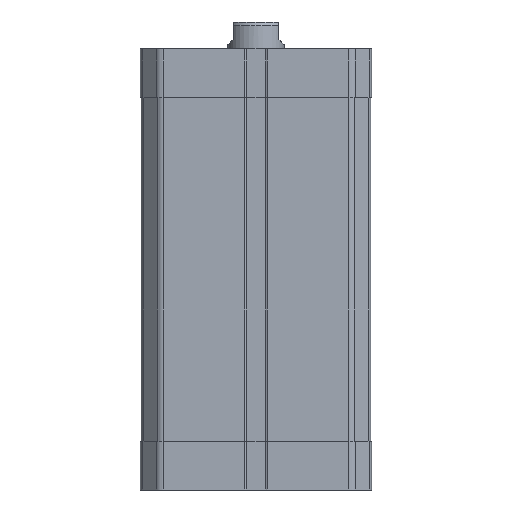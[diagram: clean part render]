
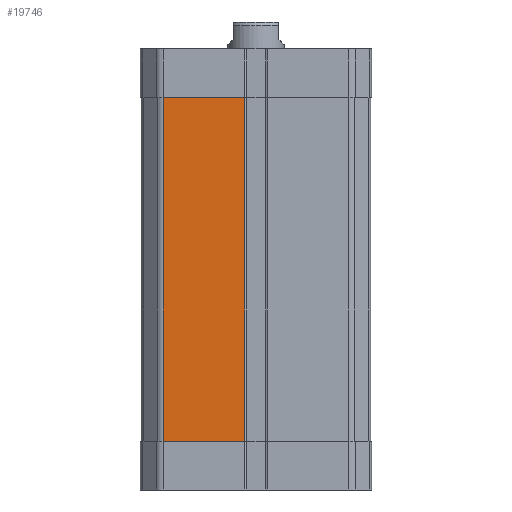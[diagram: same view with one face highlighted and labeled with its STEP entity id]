
A CAD part, front view. The second image highlights one B-rep face of the part: STEP entity #19746.
In plain terms, the highlighted planar face has unit normal (0, -1, 0).
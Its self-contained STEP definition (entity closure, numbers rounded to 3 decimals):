
#413 = ORIENTED_EDGE ( 'NONE', *, *, #30836, .T. ) ;
#1641 = CARTESIAN_POINT ( 'NONE',  ( 32.5, -32.5, -13.8 ) ) ;
#3850 = VECTOR ( 'NONE', #8974, 1000. ) ;
#4266 = EDGE_CURVE ( 'NONE', #22541, #15571, #10324, .T. ) ;
#4832 = ORIENTED_EDGE ( 'NONE', *, *, #4266, .F. ) ;
#7546 = VECTOR ( 'NONE', #23824, 1000. ) ;
#8448 = CARTESIAN_POINT ( 'NONE',  ( -3.125, -32.5, -111.2 ) ) ;
#8572 = VERTEX_POINT ( 'NONE', #9058 ) ;
#8930 = PLANE ( 'NONE',  #10762 ) ;
#8974 = DIRECTION ( 'NONE',  ( 1., 0., 0. ) ) ;
#9058 = CARTESIAN_POINT ( 'NONE',  ( -3.125, -32.5, -111.2 ) ) ;
#9246 = CARTESIAN_POINT ( 'NONE',  ( 32.5, -32.5, -13.8 ) ) ;
#10324 = LINE ( 'NONE', #1641, #3850 ) ;
#10762 = AXIS2_PLACEMENT_3D ( 'NONE', #9246, #23756, #13931 ) ;
#13806 = VECTOR ( 'NONE', #18234, 1000. ) ;
#13871 = ORIENTED_EDGE ( 'NONE', *, *, #18897, .F. ) ;
#13931 = DIRECTION ( 'NONE',  ( -1., 0., 0. ) ) ;
#14762 = EDGE_CURVE ( 'NONE', #8572, #20774, #27212, .T. ) ;
#15280 = EDGE_LOOP ( 'NONE', ( #13871, #21268, #413, #4832 ) ) ;
#15571 = VERTEX_POINT ( 'NONE', #17958 ) ;
#16440 = CARTESIAN_POINT ( 'NONE',  ( -26.319, -32.5, -36.2 ) ) ;
#16638 = CARTESIAN_POINT ( 'NONE',  ( -3.125, -32.5, -13.8 ) ) ;
#17958 = CARTESIAN_POINT ( 'NONE',  ( -3.125, -32.5, -13.8 ) ) ;
#18234 = DIRECTION ( 'NONE',  ( -1., 0., 0. ) ) ;
#18523 = LINE ( 'NONE', #16440, #23891 ) ;
#18897 = EDGE_CURVE ( 'NONE', #20774, #22541, #18523, .T. ) ;
#19741 = LINE ( 'NONE', #16638, #7546 ) ;
#19746 = ADVANCED_FACE ( 'NONE', ( #29161 ), #8930, .F. ) ;
#20774 = VERTEX_POINT ( 'NONE', #22869 ) ;
#21268 = ORIENTED_EDGE ( 'NONE', *, *, #14762, .F. ) ;
#22541 = VERTEX_POINT ( 'NONE', #23493 ) ;
#22869 = CARTESIAN_POINT ( 'NONE',  ( -26.319, -32.5, -111.2 ) ) ;
#23493 = CARTESIAN_POINT ( 'NONE',  ( -26.319, -32.5, -13.8 ) ) ;
#23756 = DIRECTION ( 'NONE',  ( 0., 1., 0. ) ) ;
#23824 = DIRECTION ( 'NONE',  ( 0., 0., 1. ) ) ;
#23891 = VECTOR ( 'NONE', #28890, 1000. ) ;
#27212 = LINE ( 'NONE', #8448, #13806 ) ;
#28890 = DIRECTION ( 'NONE',  ( 0., 0., 1. ) ) ;
#29161 = FACE_OUTER_BOUND ( 'NONE', #15280, .T. ) ;
#30836 = EDGE_CURVE ( 'NONE', #8572, #15571, #19741, .T. ) ;
